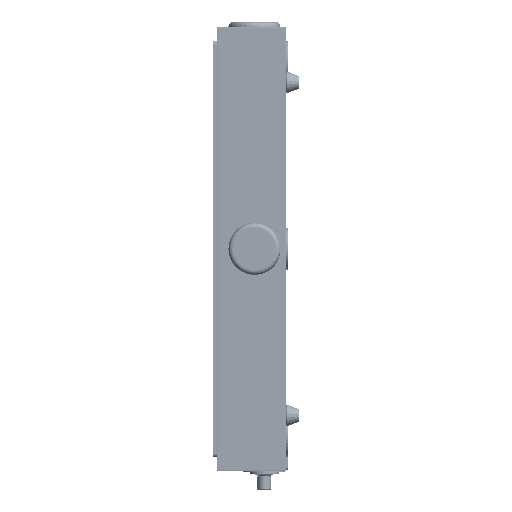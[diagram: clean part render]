
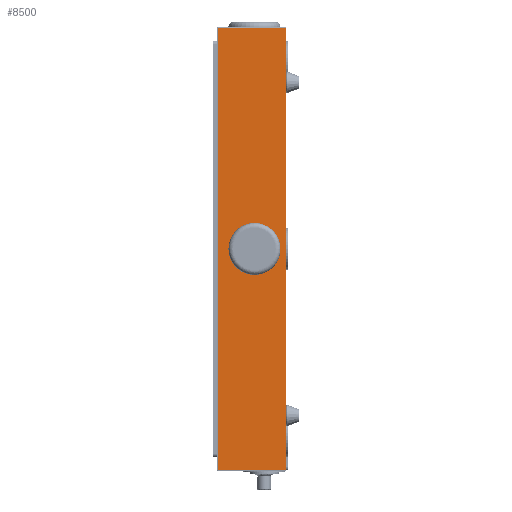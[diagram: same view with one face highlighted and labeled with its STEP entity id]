
A CAD part, left-side view. The second image highlights one B-rep face of the part: STEP entity #8500.
In plain terms, the highlighted planar face has unit normal (-1, 0, 0).
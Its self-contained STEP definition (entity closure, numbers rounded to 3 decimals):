
#688 = CARTESIAN_POINT ( 'NONE',  ( -320., 46., -27.5 ) ) ;
#3927 = ORIENTED_EDGE ( 'NONE', *, *, #31027, .T. ) ;
#5561 = EDGE_CURVE ( 'NONE', #39287, #92873, #111834, .T. ) ;
#6436 = DIRECTION ( 'NONE',  ( 1., 0., 0. ) ) ;
#8500 = ADVANCED_FACE ( 'NONE', ( #80913, #19040 ), #58362, .F. ) ;
#9400 = DIRECTION ( 'NONE',  ( 0., 0., -1. ) ) ;
#10598 = ORIENTED_EDGE ( 'NONE', *, *, #87344, .F. ) ;
#11474 = AXIS2_PLACEMENT_3D ( 'NONE', #125125, #73725, #53311 ) ;
#12160 = CIRCLE ( 'NONE', #39206, 27.5 ) ;
#16924 = DIRECTION ( 'NONE',  ( 0., 0., -1. ) ) ;
#18427 = CARTESIAN_POINT ( 'NONE',  ( -320., 0., -319. ) ) ;
#19040 = FACE_OUTER_BOUND ( 'NONE', #114561, .T. ) ;
#29915 = CARTESIAN_POINT ( 'NONE',  ( -320., 0., 320. ) ) ;
#31027 = EDGE_CURVE ( 'NONE', #92873, #129154, #80163, .T. ) ;
#33120 = VECTOR ( 'NONE', #39403, 1000. ) ;
#39206 = AXIS2_PLACEMENT_3D ( 'NONE', #57337, #128245, #56893 ) ;
#39287 = VERTEX_POINT ( 'NONE', #94539 ) ;
#39403 = DIRECTION ( 'NONE',  ( 0., -1., 0. ) ) ;
#42552 = CARTESIAN_POINT ( 'NONE',  ( -320., 0., 320. ) ) ;
#43113 = CARTESIAN_POINT ( 'NONE',  ( -320., 99., 320. ) ) ;
#43371 = AXIS2_PLACEMENT_3D ( 'NONE', #42552, #6436, #16924 ) ;
#52956 = EDGE_CURVE ( 'NONE', #128877, #128364, #12160, .T. ) ;
#53190 = EDGE_CURVE ( 'NONE', #111334, #39287, #126077, .T. ) ;
#53311 = DIRECTION ( 'NONE',  ( 0., 0., 1. ) ) ;
#55593 = ORIENTED_EDGE ( 'NONE', *, *, #53190, .T. ) ;
#56893 = DIRECTION ( 'NONE',  ( 0., 0., 1. ) ) ;
#57337 = CARTESIAN_POINT ( 'NONE',  ( -320., 46., 0. ) ) ;
#58243 = EDGE_LOOP ( 'NONE', ( #119180, #90989 ) ) ;
#58362 = PLANE ( 'NONE',  #43371 ) ;
#62034 = VECTOR ( 'NONE', #9400, 1000. ) ;
#64035 = CARTESIAN_POINT ( 'NONE',  ( -320., 46., 27.5 ) ) ;
#65957 = ORIENTED_EDGE ( 'NONE', *, *, #5561, .T. ) ;
#67107 = EDGE_CURVE ( 'NONE', #128364, #128877, #103640, .T. ) ;
#71144 = VECTOR ( 'NONE', #127113, 1000. ) ;
#71325 = CARTESIAN_POINT ( 'NONE',  ( -320., 0., 319. ) ) ;
#73725 = DIRECTION ( 'NONE',  ( -1., 0., 0. ) ) ;
#80163 = LINE ( 'NONE', #18427, #33120 ) ;
#80913 = FACE_BOUND ( 'NONE', #58243, .T. ) ;
#87344 = EDGE_CURVE ( 'NONE', #111334, #129154, #110787, .T. ) ;
#90989 = ORIENTED_EDGE ( 'NONE', *, *, #52956, .F. ) ;
#91355 = DIRECTION ( 'NONE',  ( 0., 1., 0. ) ) ;
#92873 = VERTEX_POINT ( 'NONE', #105509 ) ;
#94539 = CARTESIAN_POINT ( 'NONE',  ( -320., 99., 319. ) ) ;
#98382 = VECTOR ( 'NONE', #91355, 1000. ) ;
#98762 = CARTESIAN_POINT ( 'NONE',  ( -320., 0., -319. ) ) ;
#103640 = CIRCLE ( 'NONE', #11474, 27.5 ) ;
#105509 = CARTESIAN_POINT ( 'NONE',  ( -320., 99., -319. ) ) ;
#110787 = LINE ( 'NONE', #29915, #62034 ) ;
#111334 = VERTEX_POINT ( 'NONE', #122863 ) ;
#111834 = LINE ( 'NONE', #43113, #71144 ) ;
#114561 = EDGE_LOOP ( 'NONE', ( #10598, #55593, #65957, #3927 ) ) ;
#119180 = ORIENTED_EDGE ( 'NONE', *, *, #67107, .F. ) ;
#122863 = CARTESIAN_POINT ( 'NONE',  ( -320., 0., 319. ) ) ;
#125125 = CARTESIAN_POINT ( 'NONE',  ( -320., 46., 0. ) ) ;
#126077 = LINE ( 'NONE', #71325, #98382 ) ;
#127113 = DIRECTION ( 'NONE',  ( 0., 0., -1. ) ) ;
#128245 = DIRECTION ( 'NONE',  ( -1., 0., 0. ) ) ;
#128364 = VERTEX_POINT ( 'NONE', #64035 ) ;
#128877 = VERTEX_POINT ( 'NONE', #688 ) ;
#129154 = VERTEX_POINT ( 'NONE', #98762 ) ;
